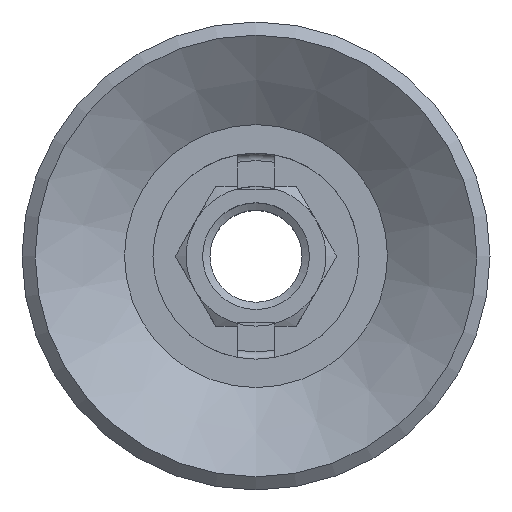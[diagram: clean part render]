
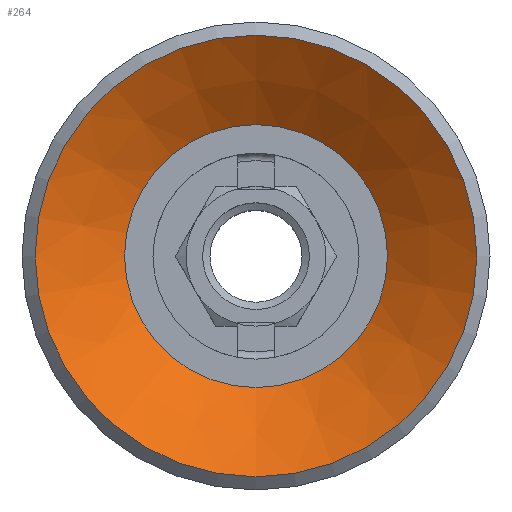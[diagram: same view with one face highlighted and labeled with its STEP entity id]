
A CAD part, top view. The second image highlights one B-rep face of the part: STEP entity #264.
In plain terms, the highlighted conical face has half-angle 55 degrees and reference radius 17.861 mm.
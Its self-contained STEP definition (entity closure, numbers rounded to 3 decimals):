
#264=ADVANCED_FACE('',(#591,#592),#593,.F.);
#290=EDGE_CURVE('',#632,#632,#633,.T.);
#292=EDGE_CURVE('',#635,#635,#636,.T.);
#591=FACE_BOUND('',#1006,.T.);
#592=FACE_OUTER_BOUND('',#1007,.T.);
#593=CONICAL_SURFACE('',#1008,17.861,0.96);
#632=VERTEX_POINT('',#1059);
#633=CIRCLE('',#1060,17.861);
#635=VERTEX_POINT('',#1063);
#636=CIRCLE('',#1064,30.0);
#1006=EDGE_LOOP('',(#1432));
#1007=EDGE_LOOP('',(#1433));
#1008=AXIS2_PLACEMENT_3D('',#1434,#1435,#1436);
#1059=CARTESIAN_POINT('',(0.0,8.5,-17.861));
#1060=AXIS2_PLACEMENT_3D('',#1476,#1477,#1478);
#1063=CARTESIAN_POINT('',(0.0,0.0,-30.0));
#1064=AXIS2_PLACEMENT_3D('',#1479,#1480,#1481);
#1432=ORIENTED_EDGE('',*,*,#290,.F.);
#1433=ORIENTED_EDGE('',*,*,#292,.T.);
#1434=CARTESIAN_POINT('',(0.0,8.5,0.0));
#1435=DIRECTION('',(0.0,-1.0,-0.0));
#1436=DIRECTION('',(0.0,0.0,-1.0));
#1476=CARTESIAN_POINT('',(0.0,8.5,0.0));
#1477=DIRECTION('',(0.0,-1.0,0.0));
#1478=DIRECTION('',(0.0,0.0,-1.0));
#1479=CARTESIAN_POINT('',(0.0,0.0,0.0));
#1480=DIRECTION('',(0.0,-1.0,0.0));
#1481=DIRECTION('',(0.0,0.0,-1.0));
